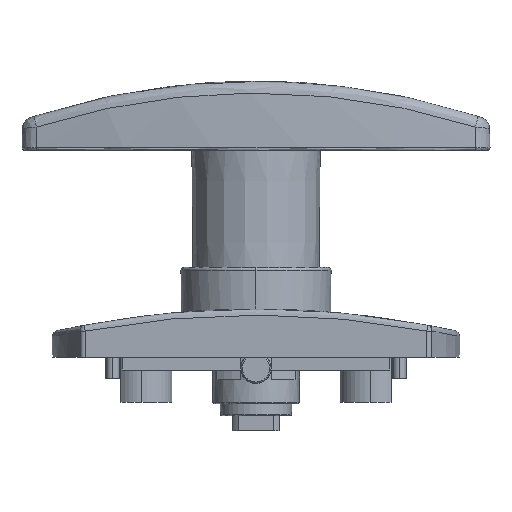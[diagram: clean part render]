
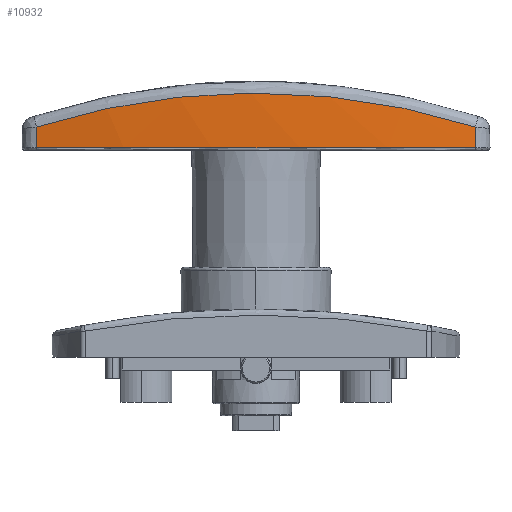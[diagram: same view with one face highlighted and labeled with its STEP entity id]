
A CAD part, left-side view. The second image highlights one B-rep face of the part: STEP entity #10932.
In plain terms, the highlighted conical face has half-angle 1.5 degrees and reference radius 189.882 mm.
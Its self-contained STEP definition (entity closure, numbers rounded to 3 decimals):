
#287 = EDGE_CURVE ( 'NONE', #6676, #6077, #4925, .T. ) ;
#376 = EDGE_CURVE ( 'NONE', #6077, #17112, #12261, .T. ) ;
#396 = CARTESIAN_POINT ( 'NONE',  ( -36.558, 7.844, 25.384 ) ) ;
#554 = CARTESIAN_POINT ( 'NONE',  ( 0., -178.393, 21.898 ) ) ;
#1301 = VECTOR ( 'NONE', #10880, 1000. ) ;
#1454 = DIRECTION ( 'NONE',  ( 1., 0., 0. ) ) ;
#1460 = CARTESIAN_POINT ( 'NONE',  ( 15.545, 10.662, 30.088 ) ) ;
#1536 = CARTESIAN_POINT ( 'NONE',  ( 0.392, 11.25, 31.052 ) ) ;
#1616 = CARTESIAN_POINT ( 'NONE',  ( -32.11, 8.627, 26.704 ) ) ;
#1838 = CONICAL_SURFACE ( 'NONE', #5692, 189.882, 0.026 ) ;
#3132 = ORIENTED_EDGE ( 'NONE', *, *, #18361, .F. ) ;
#3253 = CARTESIAN_POINT ( 'NONE',  ( 9.373, 11.028, 30.688 ) ) ;
#3342 = CARTESIAN_POINT ( 'NONE',  ( -3.131, 11.25, 31.052 ) ) ;
#3419 = CARTESIAN_POINT ( 'NONE',  ( -32.856, 8.503, 26.496 ) ) ;
#4395 = CARTESIAN_POINT ( 'NONE',  ( 36.576, 7.934, 21.898 ) ) ;
#4607 = DIRECTION ( 'NONE',  ( 0.005, -0.026, 1. ) ) ;
#4925 = LINE ( 'NONE', #10794, #1301 ) ;
#5050 = CARTESIAN_POINT ( 'NONE',  ( 6.266, 11.157, 30.9 ) ) ;
#5129 = CARTESIAN_POINT ( 'NONE',  ( -9.33, 11.03, 30.691 ) ) ;
#5210 = CARTESIAN_POINT ( 'NONE',  ( -33.6, 8.377, 26.283 ) ) ;
#5692 = AXIS2_PLACEMENT_3D ( 'NONE', #554, #16627, #13133 ) ;
#6077 = VERTEX_POINT ( 'NONE', #4395 ) ;
#6676 = VERTEX_POINT ( 'NONE', #9109 ) ;
#6835 = CARTESIAN_POINT ( 'NONE',  ( 3.922, 11.213, 30.991 ) ) ;
#6915 = CARTESIAN_POINT ( 'NONE',  ( -15.487, 10.666, 30.095 ) ) ;
#6990 = CARTESIAN_POINT ( 'NONE',  ( -34.342, 8.247, 26.065 ) ) ;
#7130 = ORIENTED_EDGE ( 'NONE', *, *, #18693, .T. ) ;
#8579 = CARTESIAN_POINT ( 'NONE',  ( 30.647, 8.885, 27.139 ) ) ;
#8659 = CARTESIAN_POINT ( 'NONE',  ( 2.353, 11.236, 31.029 ) ) ;
#8739 = CARTESIAN_POINT ( 'NONE',  ( -21.582, 10.093, 29.148 ) ) ;
#8820 = CARTESIAN_POINT ( 'NONE',  ( -35.822, 7.982, 25.618 ) ) ;
#9109 = CARTESIAN_POINT ( 'NONE',  ( 36.558, 7.844, 25.384 ) ) ;
#9862 = VECTOR ( 'NONE', #4607, 1000. ) ;
#10376 = ORIENTED_EDGE ( 'NONE', *, *, #287, .T. ) ;
#10400 = CARTESIAN_POINT ( 'NONE',  ( 24.658, 9.73, 28.548 ) ) ;
#10478 = CARTESIAN_POINT ( 'NONE',  ( 1.568, 11.244, 31.043 ) ) ;
#10568 = CARTESIAN_POINT ( 'NONE',  ( -27.616, 9.313, 27.852 ) ) ;
#10794 = CARTESIAN_POINT ( 'NONE',  ( 36.578, 7.944, 21.5 ) ) ;
#10880 = DIRECTION ( 'NONE',  ( 0.005, 0.026, -1. ) ) ;
#10900 = VERTEX_POINT ( 'NONE', #396 ) ;
#10932 = ADVANCED_FACE ( 'NONE', ( #13088 ), #1838, .T. ) ;
#12212 = CARTESIAN_POINT ( 'NONE',  ( 18.591, 10.374, 29.613 ) ) ;
#12261 = CIRCLE ( 'NONE', #19578, 189.882 ) ;
#12292 = CARTESIAN_POINT ( 'NONE',  ( 0.784, 11.249, 31.05 ) ) ;
#12380 = CARTESIAN_POINT ( 'NONE',  ( -30.617, 8.873, 27.116 ) ) ;
#13088 = FACE_OUTER_BOUND ( 'NONE', #16142, .T. ) ;
#13133 = DIRECTION ( 'NONE',  ( -1., 0., 0. ) ) ;
#13595 = CARTESIAN_POINT ( 'NONE',  ( -36.578, 7.944, 21.5 ) ) ;
#13746 = CARTESIAN_POINT ( 'NONE',  ( -36.576, 7.934, 21.898 ) ) ;
#14014 = CARTESIAN_POINT ( 'NONE',  ( 12.472, 10.881, 30.447 ) ) ;
#14091 = CARTESIAN_POINT ( 'NONE',  ( 0., 11.25, 31.052 ) ) ;
#14170 = CARTESIAN_POINT ( 'NONE',  ( -32.483, 8.566, 26.601 ) ) ;
#14654 = LINE ( 'NONE', #13595, #9862 ) ;
#15815 = CARTESIAN_POINT ( 'NONE',  ( 7.823, 11.101, 30.809 ) ) ;
#15903 = CARTESIAN_POINT ( 'NONE',  ( -6.241, 11.176, 30.931 ) ) ;
#15979 = CARTESIAN_POINT ( 'NONE',  ( -33.228, 8.44, 26.39 ) ) ;
#16142 = EDGE_LOOP ( 'NONE', ( #10376, #19727, #7130, #3132 ) ) ;
#16627 = DIRECTION ( 'NONE',  ( 0., 0., -1. ) ) ;
#17112 = VERTEX_POINT ( 'NONE', #13746 ) ;
#17431 = CARTESIAN_POINT ( 'NONE',  ( 36.558, 7.844, 25.384 ) ) ;
#17607 = CARTESIAN_POINT ( 'NONE',  ( 4.703, 11.194, 30.961 ) ) ;
#17685 = CARTESIAN_POINT ( 'NONE',  ( -12.419, 10.884, 30.452 ) ) ;
#17759 = CARTESIAN_POINT ( 'NONE',  ( -33.972, 8.312, 26.175 ) ) ;
#17835 = DIRECTION ( 'NONE',  ( 0., 0., 1. ) ) ;
#18361 = EDGE_CURVE ( 'NONE', #6676, #10900, #21454, .T. ) ;
#18693 = EDGE_CURVE ( 'NONE', #17112, #10900, #14654, .T. ) ;
#19397 = CARTESIAN_POINT ( 'NONE',  ( 3.138, 11.227, 31.014 ) ) ;
#19480 = CARTESIAN_POINT ( 'NONE',  ( -18.535, 10.38, 29.622 ) ) ;
#19559 = CARTESIAN_POINT ( 'NONE',  ( -35.084, 8.117, 25.845 ) ) ;
#19578 = AXIS2_PLACEMENT_3D ( 'NONE', #22535, #17835, #1454 ) ;
#19727 = ORIENTED_EDGE ( 'NONE', *, *, #376, .T. ) ;
#21045 = CARTESIAN_POINT ( 'NONE',  ( 33.615, 8.397, 26.319 ) ) ;
#21114 = CARTESIAN_POINT ( 'NONE',  ( 27.652, 9.308, 27.843 ) ) ;
#21198 = CARTESIAN_POINT ( 'NONE',  ( 1.96, 11.241, 31.037 ) ) ;
#21281 = CARTESIAN_POINT ( 'NONE',  ( -24.609, 9.737, 28.559 ) ) ;
#21364 = CARTESIAN_POINT ( 'NONE',  ( -36.558, 7.844, 25.384 ) ) ;
#21454 = B_SPLINE_CURVE_WITH_KNOTS ( 'NONE', 3,
 ( #17431, #21045, #8579, #21114, #10400, #22926, #12212, #1460, #14014, #3253, #15815, #5050, #17607, #6835, #19397, #8659, #21198, #10478, #23008, #12292, #1536, #14091, #3342, #15903, #5129, #17685, #6915, #19480, #8739, #21281, #10568, #23079, #12380, #1616, #14170, #3419, #15979, #5210, #17759, #6990, #19559, #8820, #21364 ),
 .UNSPECIFIED., .F., .F.,
 ( 4, 3, 3, 3, 3, 3, 3, 3, 3, 3, 3, 3, 3, 3, 4 ),
 ( 0., 0.125, 0.25, 0.375, 0.438, 0.469, 0.484, 0.5, 0.625, 0.75, 0.875, 0.937, 0.953, 0.969, 1. ),
 .UNSPECIFIED. ) ;
#22535 = CARTESIAN_POINT ( 'NONE',  ( 0., -178.393, 21.898 ) ) ;
#22926 = CARTESIAN_POINT ( 'NONE',  ( 21.637, 10.087, 29.138 ) ) ;
#23008 = CARTESIAN_POINT ( 'NONE',  ( 1.176, 11.246, 31.047 ) ) ;
#23079 = CARTESIAN_POINT ( 'NONE',  ( -29.119, 9.101, 27.499 ) ) ;
